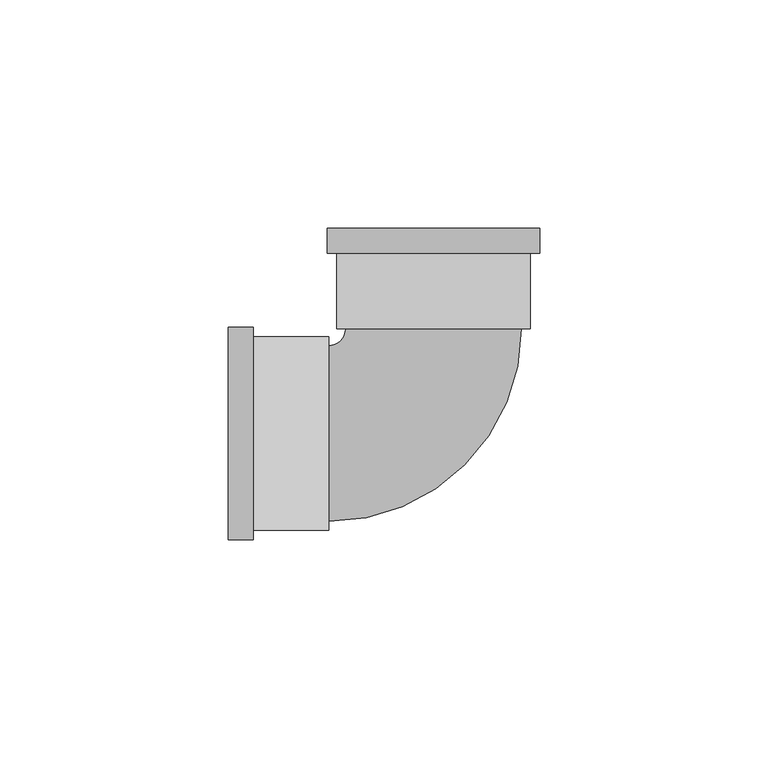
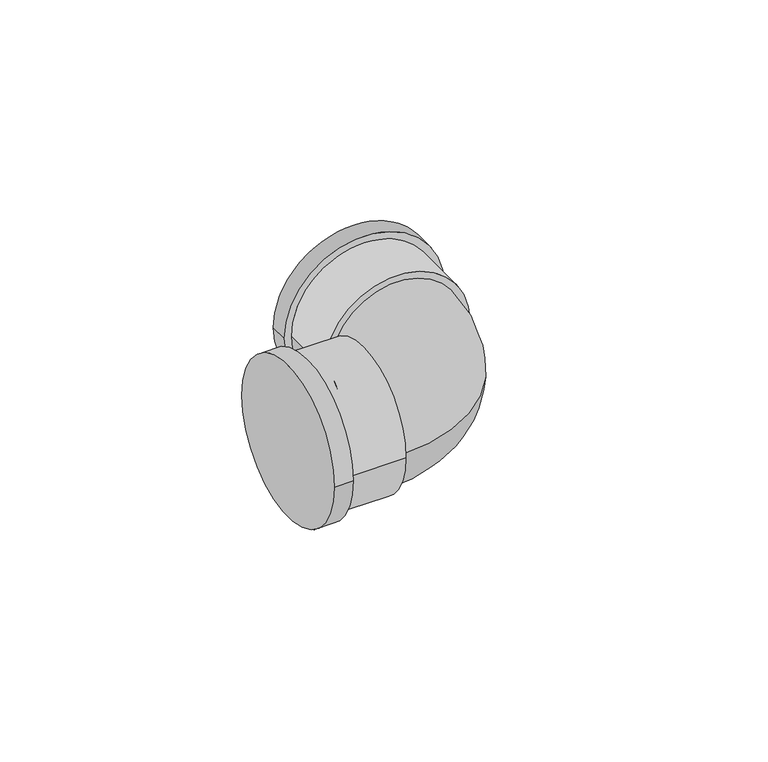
"""IFC4 building model written with IfcOpenShell, lengths in millimetres: pipe fitting geometry, Cotovelo - PVC - CW : Padrão."""

from ifc_helpers import new_model, si_unit, point, frame, origin, place, context, project, spatial, circle_curve, ellipse_curve, trimmed, source, transform, mapped, element, save
from ifc_brep_helpers import plane_surface, cylinder_surface, revolved_surface, advanced_brep


def pipe_fitting_45771724(model_context):
    return source(origin(), model_context, "Body", "AdvancedBrep", [
        advanced_brep(
        [(-45.0005151, -23.2925, 0.0), (-45.0005151, 23.2925, 0.0), (-39.5005151, -23.2925, 0.0), (-39.5005151, 23.2925, 0.0), (-39.5005151, -21.175, 0.0), (-39.5005151, 21.175, 0.0), (-23.0005151, 21.175, 0.0), (-23.0005151, -21.175, 0.0), (-23.0005151, -19.25, 0.0), (-23.0005151, 19.25, 0.0), (-19.2505151, 23.000084, 0.0), (19.2494849, 23.0009462, 0.0), (21.1744849, 23.0009893, 0.0), (-21.1755151, 23.0000409, 0.0), (-23.2935078, 44.9999934, 0.0), (23.2914922, 45.0010367, 0.0), (21.1741154, 39.5009893, 0.0), (-21.1758846, 39.5000409, 0.0), (-23.2933846, 39.4999934, 0.0), (23.2916154, 39.5010367, 0.0)],
        [
            (0, 1, circle_curve(frame((-45.0005151, 0.0, 0.0), z_axis=(-1.0, 0.0, 0.0), x_axis=(0.0, 1.0, 0.0)), 23.2925)),
            (1, 0, circle_curve(frame((-45.0005151, 0.0, 0.0), z_axis=(-1.0, 0.0, 0.0), x_axis=(0.0, 1.0, 0.0)), 23.2925)),
            (2, 3, circle_curve(frame((-39.5005151, 0.0, 0.0), z_axis=(1.0, 0.0, 0.0), x_axis=(0.0, 1.0, 0.0)), 23.2925)),
            (3, 2, circle_curve(frame((-39.5005151, 0.0, 0.0), z_axis=(1.0, 0.0, 0.0), x_axis=(0.0, 1.0, 0.0)), 23.2925)),
            (4, 5, circle_curve(frame((-39.5005151, 0.0, 0.0), z_axis=(-1.0, 0.0, 0.0), x_axis=(0.0, -1.0, 0.0)), 21.175)),
            (5, 4, circle_curve(frame((-39.5005151, 0.0, 0.0), z_axis=(-1.0, 0.0, 0.0), x_axis=(0.0, -1.0, 0.0)), 21.175)),
            (0, 2),
            (3, 1),
            (6, 7, circle_curve(frame((-23.0005151, 0.0, 0.0), z_axis=(1.0, 0.0, 0.0), x_axis=(0.0, -1.0, 0.0)), 21.175)),
            (7, 6, circle_curve(frame((-23.0005151, 0.0, 0.0), z_axis=(1.0, 0.0, 0.0), x_axis=(0.0, -1.0, 0.0)), 21.175)),
            (8, 9, circle_curve(frame((-23.0005151, 0.0, 0.0), z_axis=(-1.0, 0.0, 0.0), x_axis=(0.0, 1.0, 0.0)), 19.25)),
            (9, 8, circle_curve(frame((-23.0005151, 0.0, 0.0), z_axis=(-1.0, 0.0, 0.0), x_axis=(0.0, 1.0, 0.0)), 19.25)),
            (6, 5),
            (4, 7),
            (10, 9, circle_curve(frame((-23.0005151, 23.0, 0.0), z_axis=(0.0, 0.0, -1.0), x_axis=(0.0, -1.0, 0.0)), 3.75)),
            (8, 11, circle_curve(frame((-23.0005151, 23.0, 0.0), z_axis=(0.0, 0.0, 1.0), x_axis=(0.0, -1.0, 0.0)), 42.25)),
            (11, 10, circle_curve(frame((-0.0005151, 23.0005151, 0.0), z_axis=(2.2394877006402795e-05, -0.9999999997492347, 0.0), x_axis=(-0.9999999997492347, -2.2394877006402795e-05, 0.0)), 19.25)),
            (10, 11, circle_curve(frame((-0.0005151, 23.0005151, 0.0), z_axis=(2.2394877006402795e-05, -0.9999999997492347, 0.0), x_axis=(-0.9999999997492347, -2.2394877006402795e-05, 0.0)), 19.25)),
            (12, 13, circle_curve(frame((-0.0005151, 23.0005151, 0.0), z_axis=(2.2394877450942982e-05, -0.9999999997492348, 0.0), x_axis=(-0.9999999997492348, -2.2394877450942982e-05, 0.0)), 21.175)),
            (13, 12, circle_curve(frame((-0.0005151, 23.0005151, 0.0), z_axis=(2.2394877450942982e-05, -0.9999999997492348, 0.0), x_axis=(-0.9999999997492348, -2.2394877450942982e-05, 0.0)), 21.175)),
            (14, 15, circle_curve(frame((-0.0010078, 45.0005151, 0.0), z_axis=(-2.2394876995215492e-05, 0.9999999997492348, 0.0), x_axis=(0.9999999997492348, 2.2394876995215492e-05, 0.0)), 23.2925)),
            (15, 14, circle_curve(frame((-0.0010078, 45.0005151, 0.0), z_axis=(-2.2394876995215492e-05, 0.9999999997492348, 0.0), x_axis=(0.9999999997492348, 2.2394876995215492e-05, 0.0)), 23.2925)),
            (12, 16),
            (16, 17, circle_curve(frame((-0.0008846, 39.5005151, 0.0), z_axis=(2.2394877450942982e-05, -0.9999999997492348, 0.0), x_axis=(-0.9999999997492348, -2.2394877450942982e-05, 0.0)), 21.175)),
            (17, 13),
            (17, 16, circle_curve(frame((-0.0008846, 39.5005151, 0.0), z_axis=(2.2394877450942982e-05, -0.9999999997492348, 0.0), x_axis=(-0.9999999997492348, -2.2394877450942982e-05, 0.0)), 21.175)),
            (18, 19, circle_curve(frame((-0.0008846, 39.5005151, 0.0), z_axis=(2.2394876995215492e-05, -0.9999999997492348, 0.0), x_axis=(0.9999999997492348, 2.2394876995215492e-05, 0.0)), 23.2925)),
            (19, 18, circle_curve(frame((-0.0008846, 39.5005151, 0.0), z_axis=(2.2394876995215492e-05, -0.9999999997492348, 0.0), x_axis=(0.9999999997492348, 2.2394876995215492e-05, 0.0)), 23.2925)),
            (14, 18),
            (19, 15),
        ],
        [
            plane_surface(frame((-45.0005151, 0.0, 0.0), z_axis=(-1.0, 0.0, 0.0), x_axis=(0.0, 0.0, 1.0))),
            plane_surface(frame((-39.5005151, 0.0, 0.0), z_axis=(1.0, 0.0, 0.0), x_axis=(0.0, 0.0, 1.0))),
            cylinder_surface(frame((-45.0005151, 0.0, 0.0), z_axis=(-1.0, 0.0, 0.0), x_axis=(0.0, 1.0, 0.0)), 23.2925),
            plane_surface(frame((-23.0005151, 0.0, 0.0), z_axis=(1.0, 0.0, 0.0), x_axis=(0.0, 0.0, 1.0))),
            cylinder_surface(frame((-23.0005151, 0.0, 0.0), z_axis=(1.0, 0.0, 0.0), x_axis=(0.0, -1.0, 0.0)), 21.175),
            revolved_surface(trimmed(ellipse_curve(frame((-23.0005151, 0.0, 0.0), z_axis=(-1.0, 0.0, 0.0), x_axis=(0.0, 1.0, 0.0)), 19.25, 19.25), [point((-23.0005151, -19.25, 0.0))], [point((-23.0005151, 19.25, 0.0))], True, "CARTESIAN"), (-23.0005151, 23.0, 0.0), (0.0, 0.0, 1.0)),
            revolved_surface(trimmed(ellipse_curve(frame((-23.0005151, 0.0, 0.0), z_axis=(-1.0, 0.0, 0.0), x_axis=(0.0, 1.0, 0.0)), 19.25, 19.25), [point((-23.0005151, 19.25, 0.0))], [point((-23.0005151, -19.25, 0.0))], True, "CARTESIAN"), (-23.0005151, 23.0, 0.0), (0.0, 0.0, 1.0)),
            plane_surface(frame((-0.0005151, 23.0005151, 0.0), z_axis=(2.239487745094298e-05, -0.9999999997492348, 0.0), x_axis=(0.0, 0.0, 1.0))),
            plane_surface(frame((-0.0010078, 45.0005151, 0.0), z_axis=(-2.239487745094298e-05, 0.9999999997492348, 0.0), x_axis=(0.0, 0.0, 1.0))),
            cylinder_surface(frame((-0.0005151, 23.0005151, 0.0), z_axis=(2.2394877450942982e-05, -0.9999999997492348, 0.0), x_axis=(-0.9999999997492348, -2.2394877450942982e-05, 0.0)), 21.175),
            plane_surface(frame((-0.0008846, 39.5005151, 0.0), z_axis=(2.239487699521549e-05, -0.9999999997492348, 0.0), x_axis=(0.0, 0.0, 1.0))),
            cylinder_surface(frame((-0.0010078, 45.0005151, 0.0), z_axis=(-2.2394876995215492e-05, 0.9999999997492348, 0.0), x_axis=(0.9999999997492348, 2.2394876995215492e-05, 0.0)), 23.2925),
        ],
        [
            (0, [[1, 2]]),
            (1, [[3, 4], [5, 6]]),
            (2, [[-1, 7, -4, 8]]),
            (2, [[-2, -8, -3, -7]]),
            (3, [[9, 10], [11, 12]]),
            (4, [[-9, 13, -5, 14]]),
            (4, [[-10, -14, -6, -13]]),
            (5, [[15, -11, 16, 17]]),
            (6, [[-15, 18, -16, -12]]),
            (7, [[19, 20], [-17, -18]]),
            (8, [[21, 22]]),
            (9, [[-19, 23, 24, 25]]),
            (9, [[-20, -25, 26, -23]]),
            (10, [[27, 28], [-24, -26]]),
            (11, [[-21, 29, -28, 30]]),
            (11, [[-22, -30, -27, -29]]),
        ],
    ),
    ])


if __name__ == "__main__":
    model = new_model("IFC4")
    model_context = context("Model", 3, world=origin())
    ifc_project = project(units=[si_unit("LENGTHUNIT", "METRE", prefix="MILLI")], contexts=[model_context])
    site = spatial("IfcSite", under=ifc_project)
    building = spatial("IfcBuilding", under=site)
    placement = place(None, origin())
    pipe_fitting_shape = pipe_fitting_45771724(model_context)
    element("IfcPipeFitting", 1, ObjectType="Cotovelo - PVC - CW : Padrão", at=placement, inside=building, context=model_context, shape_type="MappedRepresentation", body=[
        mapped(pipe_fitting_shape, transform((0.0, 0.0, 0.0), x_axis=(1.0, 0.0, 0.0), y_axis=(0.0, 1.0, 0.0), z_axis=(0.0, 0.0, 1.0))),
    ])
    save(model, "model.ifc")
